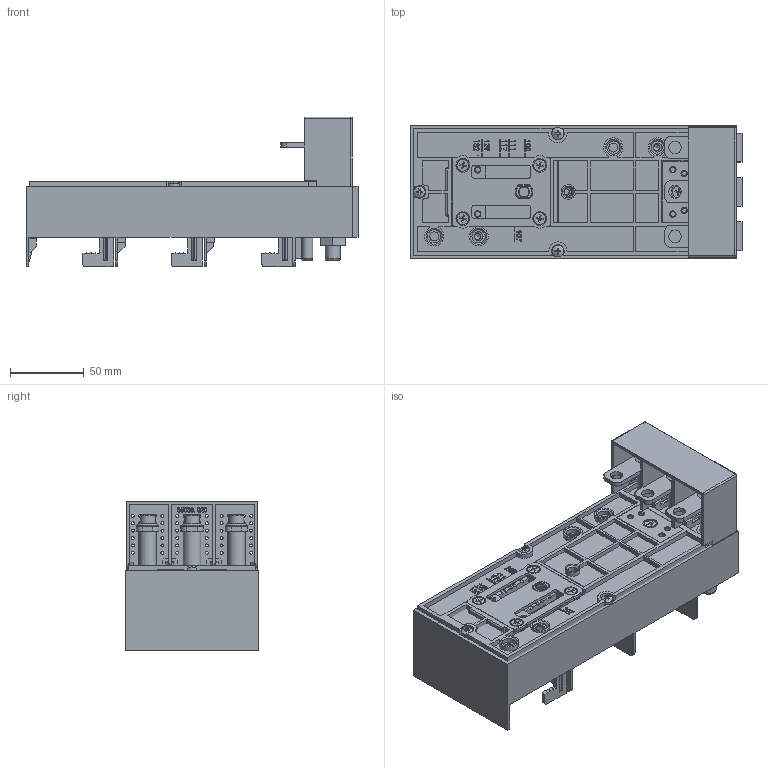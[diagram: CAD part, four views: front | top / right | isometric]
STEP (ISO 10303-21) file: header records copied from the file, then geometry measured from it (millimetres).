
FILE_DESCRIPTION (( 'STEP AP203' ), '1' );
FILE_NAME ('55067.STEP', '2021-08-23T02:40:48', ( '' ), ( '' ), 'SwSTEP 2.0', 'SolidWorks 2017', '' );
FILE_SCHEMA (( 'CONFIG_CONTROL_DESIGN' ));
Length unit declared in the file: millimetre
Products named in the file (2): 55067
Bounding box: 224.5 x 90 x 101.3 mm (x, y, z)
Volume: 761624.4 mm3; surface area: 210278.4 mm2
Topology: 8 solids, 8 shells, 2396 faces, 6403 edges, 4171 vertices
Faces by surface type: plane 1579, cylinder 501, bspline 202, cone 101, torus 11, sphere 2
Full cylindrical faces by diameter (mm): 2 x90, 3.2 x6, 3.3 x2, 3.5 x2, 4 x10, 4.2 x3, 4.3 x4, 4.5 x1, 6 x8, 6.5 x1, 7 x3, 7.5 x1, 8 x13, 8.5 x3, 9 x9, 10 x7, 11 x4, 12 x3, 13 x1, 15 x3
Entity records: 92592 total; most frequent: CARTESIAN_POINT 34372, ORIENTED_EDGE 12146, DIRECTION 11013, EDGE_CURVE 6073, LINE 4491, VECTOR 4491, VERTEX_POINT 4112, AXIS2_PLACEMENT_3D 3261
